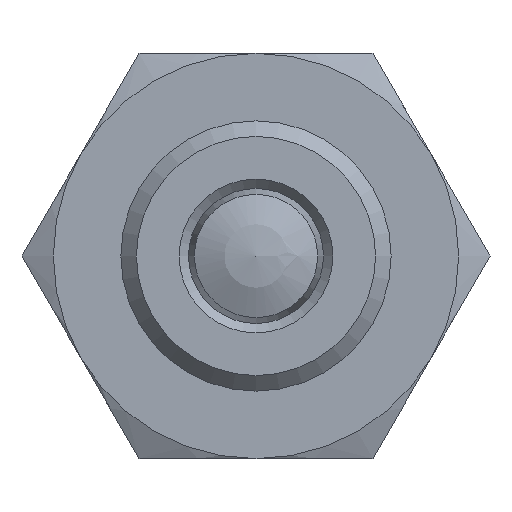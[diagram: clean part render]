
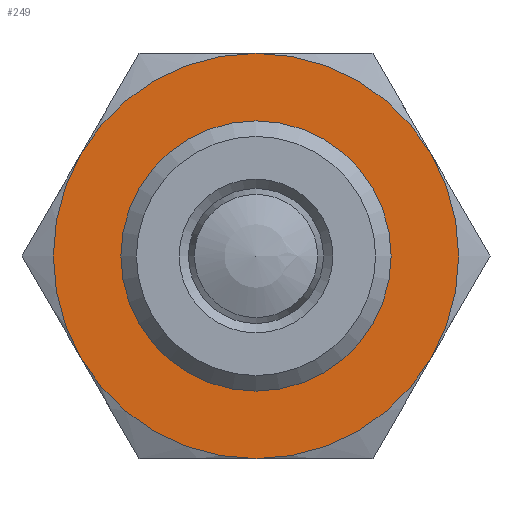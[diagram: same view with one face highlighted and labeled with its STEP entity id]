
A CAD part, left-side view. The second image highlights one B-rep face of the part: STEP entity #249.
In plain terms, the highlighted planar face has unit normal (-1, 0, 0) as drawn and (1, 0, 0) by its records, which use the part's own axes.
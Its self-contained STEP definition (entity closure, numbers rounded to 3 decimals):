
#249 = ADVANCED_FACE( '', ( #396, #397 ), #398, .F. );
#396 = FACE_BOUND( '', #567, .T. );
#397 = FACE_OUTER_BOUND( '', #568, .T. );
#398 = PLANE( '', #569 );
#567 = EDGE_LOOP( '', ( #856 ) );
#568 = EDGE_LOOP( '', ( #857, #858, #859, #860, #861, #862 ) );
#569 = AXIS2_PLACEMENT_3D( '', #863, #864, #865 );
#856 = ORIENTED_EDGE( '', *, *, #1055, .F. );
#857 = ORIENTED_EDGE( '', *, *, #1056, .T. );
#858 = ORIENTED_EDGE( '', *, *, #1057, .T. );
#859 = ORIENTED_EDGE( '', *, *, #1058, .T. );
#860 = ORIENTED_EDGE( '', *, *, #1059, .T. );
#861 = ORIENTED_EDGE( '', *, *, #1060, .T. );
#862 = ORIENTED_EDGE( '', *, *, #1061, .T. );
#863 = CARTESIAN_POINT( '', ( 8., 12., 0. ) );
#864 = DIRECTION( '', ( -1., 0., 0. ) );
#865 = DIRECTION( '', ( 0., 0., 1. ) );
#1055 = EDGE_CURVE( '', #1207, #1207, #1208, .T. );
#1056 = EDGE_CURVE( '', #1209, #1210, #1211, .T. );
#1057 = EDGE_CURVE( '', #1210, #1189, #1212, .T. );
#1058 = EDGE_CURVE( '', #1189, #1180, #1213, .T. );
#1059 = EDGE_CURVE( '', #1180, #1201, #1214, .T. );
#1060 = EDGE_CURVE( '', #1201, #1215, #1216, .T. );
#1061 = EDGE_CURVE( '', #1215, #1209, #1217, .T. );
#1180 = VERTEX_POINT( '', #1679 );
#1189 = VERTEX_POINT( '', #1709 );
#1201 = VERTEX_POINT( '', #1747 );
#1207 = VERTEX_POINT( '', #1777 );
#1208 = CIRCLE( '', #1778, 8. );
#1209 = VERTEX_POINT( '', #1779 );
#1210 = VERTEX_POINT( '', #1780 );
#1211 = CIRCLE( '', #1781, 12. );
#1212 = CIRCLE( '', #1782, 12. );
#1213 = CIRCLE( '', #1783, 12. );
#1214 = CIRCLE( '', #1784, 12. );
#1215 = VERTEX_POINT( '', #1785 );
#1216 = CIRCLE( '', #1786, 12. );
#1217 = CIRCLE( '', #1787, 12. );
#1679 = CARTESIAN_POINT( '', ( 8., 0., 12. ) );
#1709 = CARTESIAN_POINT( '', ( 8., 10.392, 6. ) );
#1747 = CARTESIAN_POINT( '', ( 8., -10.392, 6. ) );
#1777 = CARTESIAN_POINT( '', ( 8., 0., -8. ) );
#1778 = AXIS2_PLACEMENT_3D( '', #2003, #2004, #2005 );
#1779 = CARTESIAN_POINT( '', ( 8., 0., -12. ) );
#1780 = CARTESIAN_POINT( '', ( 8., 10.392, -6. ) );
#1781 = AXIS2_PLACEMENT_3D( '', #2006, #2007, #2008 );
#1782 = AXIS2_PLACEMENT_3D( '', #2009, #2010, #2011 );
#1783 = AXIS2_PLACEMENT_3D( '', #2012, #2013, #2014 );
#1784 = AXIS2_PLACEMENT_3D( '', #2015, #2016, #2017 );
#1785 = CARTESIAN_POINT( '', ( 8., -10.392, -6. ) );
#1786 = AXIS2_PLACEMENT_3D( '', #2018, #2019, #2020 );
#1787 = AXIS2_PLACEMENT_3D( '', #2021, #2022, #2023 );
#2003 = CARTESIAN_POINT( '', ( 8., 0., 0. ) );
#2004 = DIRECTION( '', ( 1., 0., 0. ) );
#2005 = DIRECTION( '', ( 0., 0., -1. ) );
#2006 = CARTESIAN_POINT( '', ( 8., 0., 0. ) );
#2007 = DIRECTION( '', ( 1., 0., 0. ) );
#2008 = DIRECTION( '', ( 0., 0., -1. ) );
#2009 = CARTESIAN_POINT( '', ( 8., 0., 0. ) );
#2010 = DIRECTION( '', ( 1., 0., 0. ) );
#2011 = DIRECTION( '', ( 0., 0., -1. ) );
#2012 = CARTESIAN_POINT( '', ( 8., 0., 0. ) );
#2013 = DIRECTION( '', ( 1., 0., 0. ) );
#2014 = DIRECTION( '', ( 0., 0., -1. ) );
#2015 = CARTESIAN_POINT( '', ( 8., 0., 0. ) );
#2016 = DIRECTION( '', ( 1., 0., 0. ) );
#2017 = DIRECTION( '', ( 0., 0., -1. ) );
#2018 = CARTESIAN_POINT( '', ( 8., 0., 0. ) );
#2019 = DIRECTION( '', ( 1., 0., 0. ) );
#2020 = DIRECTION( '', ( 0., 0., -1. ) );
#2021 = CARTESIAN_POINT( '', ( 8., 0., 0. ) );
#2022 = DIRECTION( '', ( 1., 0., 0. ) );
#2023 = DIRECTION( '', ( 0., 0., -1. ) );
